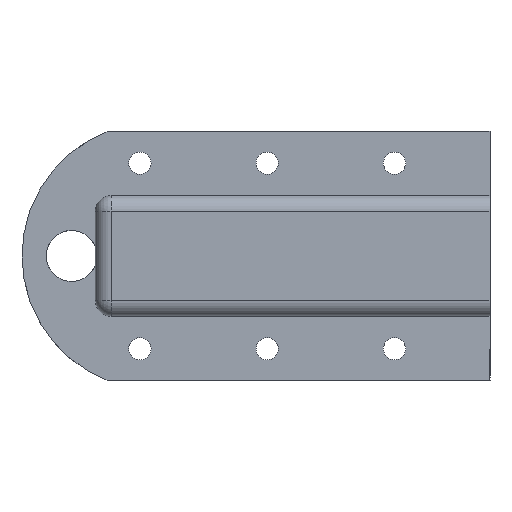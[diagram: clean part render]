
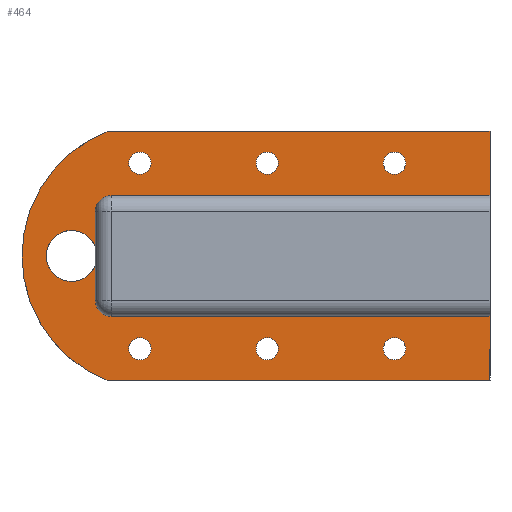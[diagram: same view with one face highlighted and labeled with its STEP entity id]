
A CAD part, top view. The second image highlights one B-rep face of the part: STEP entity #464.
In plain terms, the highlighted planar face has unit normal (0, 0, 1).
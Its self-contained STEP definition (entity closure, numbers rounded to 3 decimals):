
#464=ADVANCED_FACE('',(#3373,#3375,#3377,#3379,#3381,#3383,#3385),#3387,.T.);
#3373=FACE_BOUND('',#3374,.T.);
#3374=EDGE_LOOP('',(#5835,#5836,#5837,#5838,#5839,#5840,#5841,#5842,#5843,#5844,
#5845,#5846));
#3375=FACE_BOUND('',#3376,.T.);
#3376=EDGE_LOOP('',(#5847));
#3377=FACE_BOUND('',#3378,.T.);
#3378=EDGE_LOOP('',(#5848));
#3379=FACE_BOUND('',#3380,.T.);
#3380=EDGE_LOOP('',(#5849));
#3381=FACE_BOUND('',#3382,.T.);
#3382=EDGE_LOOP('',(#5850));
#3383=FACE_BOUND('',#3384,.T.);
#3384=EDGE_LOOP('',(#5851));
#3385=FACE_BOUND('',#3386,.T.);
#3386=EDGE_LOOP('',(#5852));
#3387=PLANE('',#3388);
#3388=AXIS2_PLACEMENT_3D('',#3389,#3390,#3391);
#3389=CARTESIAN_POINT('',(0.,0.,16.));
#3390=DIRECTION('',(0.,0.,1.));
#3391=DIRECTION('',(1.,0.,0.));
#5835=ORIENTED_EDGE('',*,*,#7091,.F.);
#5836=ORIENTED_EDGE('',*,*,#7092,.F.);
#5837=ORIENTED_EDGE('',*,*,#7069,.T.);
#5838=ORIENTED_EDGE('',*,*,#7090,.T.);
#5839=ORIENTED_EDGE('',*,*,#7088,.T.);
#5840=ORIENTED_EDGE('',*,*,#7086,.T.);
#5841=ORIENTED_EDGE('',*,*,#7073,.T.);
#5842=ORIENTED_EDGE('',*,*,#7093,.F.);
#5843=ORIENTED_EDGE('',*,*,#7094,.F.);
#5844=ORIENTED_EDGE('',*,*,#7095,.F.);
#5845=ORIENTED_EDGE('',*,*,#7096,.T.);
#5846=ORIENTED_EDGE('',*,*,#7097,.F.);
#5847=ORIENTED_EDGE('',*,*,#7083,.T.);
#5848=ORIENTED_EDGE('',*,*,#7080,.T.);
#5849=ORIENTED_EDGE('',*,*,#7084,.T.);
#5850=ORIENTED_EDGE('',*,*,#7082,.T.);
#5851=ORIENTED_EDGE('',*,*,#7079,.T.);
#5852=ORIENTED_EDGE('',*,*,#7081,.T.);
#7069=EDGE_CURVE('',#9054,#9052,#9055,.T.);
#7073=EDGE_CURVE('',#9062,#9060,#9063,.T.);
#7079=EDGE_CURVE('',#9073,#9073,#9074,.F.);
#7080=EDGE_CURVE('',#9075,#9075,#9076,.F.);
#7081=EDGE_CURVE('',#9077,#9077,#9078,.F.);
#7082=EDGE_CURVE('',#9079,#9079,#9080,.F.);
#7083=EDGE_CURVE('',#9081,#9081,#9082,.F.);
#7084=EDGE_CURVE('',#9083,#9083,#9084,.F.);
#7086=EDGE_CURVE('',#9087,#9062,#9088,.T.);
#7088=EDGE_CURVE('',#9090,#9087,#9091,.T.);
#7090=EDGE_CURVE('',#9052,#9090,#9093,.T.);
#7091=EDGE_CURVE('',#9094,#9095,#9096,.F.);
#7092=EDGE_CURVE('',#9054,#9094,#9097,.T.);
#7093=EDGE_CURVE('',#9098,#9060,#9099,.T.);
#7094=EDGE_CURVE('',#9100,#9098,#9101,.F.);
#7095=EDGE_CURVE('',#9102,#9100,#9103,.F.);
#7096=EDGE_CURVE('',#9102,#9104,#9105,.F.);
#7097=EDGE_CURVE('',#9095,#9104,#9106,.F.);
#9052=VERTEX_POINT('',#14017);
#9054=VERTEX_POINT('',#14021);
#9055=LINE('',#14022,#14023);
#9060=VERTEX_POINT('',#14034);
#9062=VERTEX_POINT('',#14039);
#9063=LINE('',#14040,#14041);
#9073=VERTEX_POINT('',#14062);
#9074=CIRCLE('',#14063,3.5);
#9075=VERTEX_POINT('',#14067);
#9076=CIRCLE('',#14068,3.5);
#9077=VERTEX_POINT('',#14072);
#9078=CIRCLE('',#14073,3.5);
#9079=VERTEX_POINT('',#14077);
#9080=CIRCLE('',#14078,3.5);
#9081=VERTEX_POINT('',#14082);
#9082=CIRCLE('',#14083,3.5);
#9083=VERTEX_POINT('',#14087);
#9084=CIRCLE('',#14088,3.5);
#9087=VERTEX_POINT('',#14097);
#9088=LINE('',#14098,#14099);
#9090=VERTEX_POINT('',#14104);
#9091=CIRCLE('',#14105,41.862);
#9093=LINE('',#14112,#14113);
#9094=VERTEX_POINT('',#14115);
#9095=VERTEX_POINT('',#14116);
#9096=CIRCLE('',#14117,5.);
#9097=LINE('',#14121,#14122);
#9098=VERTEX_POINT('',#14124);
#9099=LINE('',#14125,#14126);
#9100=VERTEX_POINT('',#14128);
#9101=CIRCLE('',#14129,5.);
#9102=VERTEX_POINT('',#14133);
#9103=LINE('',#14134,#14135);
#9104=VERTEX_POINT('',#14137);
#9105=CIRCLE('',#14138,8.);
#9106=LINE('',#14142,#14143);
#14017=CARTESIAN_POINT('',(0.,39.15,16.));
#14021=CARTESIAN_POINT('',(0.,19.,16.));
#14022=CARTESIAN_POINT('',(0.,19.,16.));
#14023=VECTOR('',#14024,1.);
#14024=DIRECTION('',(0.,1.,0.));
#14034=CARTESIAN_POINT('',(0.,-19.,16.));
#14039=CARTESIAN_POINT('',(0.,-39.15,16.));
#14040=CARTESIAN_POINT('',(0.,-39.15,16.));
#14041=VECTOR('',#14042,1.);
#14042=DIRECTION('',(0.,1.,0.));
#14062=CARTESIAN_POINT('',(-66.5,29.15,16.));
#14063=AXIS2_PLACEMENT_3D('',#14064,#14065,#14066);
#14064=CARTESIAN_POINT('',(-70.,29.15,16.));
#14065=DIRECTION('',(0.,0.,1.));
#14066=DIRECTION('',(1.,0.,0.));
#14067=CARTESIAN_POINT('',(-106.5,-29.15,16.));
#14068=AXIS2_PLACEMENT_3D('',#14069,#14070,#14071);
#14069=CARTESIAN_POINT('',(-110.,-29.15,16.));
#14070=DIRECTION('',(0.,0.,1.));
#14071=DIRECTION('',(1.,0.,0.));
#14072=CARTESIAN_POINT('',(-106.5,29.15,16.));
#14073=AXIS2_PLACEMENT_3D('',#14074,#14075,#14076);
#14074=CARTESIAN_POINT('',(-110.,29.15,16.));
#14075=DIRECTION('',(0.,0.,1.));
#14076=DIRECTION('',(1.,0.,0.));
#14077=CARTESIAN_POINT('',(-26.5,-29.15,16.));
#14078=AXIS2_PLACEMENT_3D('',#14079,#14080,#14081);
#14079=CARTESIAN_POINT('',(-30.,-29.15,16.));
#14080=DIRECTION('',(0.,0.,1.));
#14081=DIRECTION('',(1.,0.,0.));
#14082=CARTESIAN_POINT('',(-26.5,29.15,16.));
#14083=AXIS2_PLACEMENT_3D('',#14084,#14085,#14086);
#14084=CARTESIAN_POINT('',(-30.,29.15,16.));
#14085=DIRECTION('',(0.,0.,1.));
#14086=DIRECTION('',(1.,0.,0.));
#14087=CARTESIAN_POINT('',(-66.5,-29.15,16.));
#14088=AXIS2_PLACEMENT_3D('',#14089,#14090,#14091);
#14089=CARTESIAN_POINT('',(-70.,-29.15,16.));
#14090=DIRECTION('',(0.,0.,1.));
#14091=DIRECTION('',(1.,0.,0.));
#14097=CARTESIAN_POINT('',(-120.,-39.15,16.));
#14098=CARTESIAN_POINT('',(-120.,-39.15,16.));
#14099=VECTOR('',#14100,1.);
#14100=DIRECTION('',(1.,0.,0.));
#14104=CARTESIAN_POINT('',(-120.,39.15,16.));
#14105=AXIS2_PLACEMENT_3D('',#14106,#14107,#14108);
#14106=CARTESIAN_POINT('',(-105.177,0.,16.));
#14107=DIRECTION('',(0.,0.,1.));
#14108=DIRECTION('',(-0.354,0.935,0.));
#14112=CARTESIAN_POINT('',(0.,39.15,16.));
#14113=VECTOR('',#14114,1.);
#14114=DIRECTION('',(-1.,0.,0.));
#14115=CARTESIAN_POINT('',(-119.,19.,16.));
#14116=CARTESIAN_POINT('',(-124.,14.,16.));
#14117=AXIS2_PLACEMENT_3D('',#14118,#14119,#14120);
#14118=CARTESIAN_POINT('',(-119.,14.,16.));
#14119=DIRECTION('',(0.,0.,-1.));
#14120=DIRECTION('',(-1.,0.,0.));
#14121=CARTESIAN_POINT('',(0.,19.,16.));
#14122=VECTOR('',#14123,1.);
#14123=DIRECTION('',(-1.,0.,0.));
#14124=CARTESIAN_POINT('',(-119.,-19.,16.));
#14125=CARTESIAN_POINT('',(-119.,-19.,16.));
#14126=VECTOR('',#14127,1.);
#14127=DIRECTION('',(1.,0.,0.));
#14128=CARTESIAN_POINT('',(-124.,-14.,16.));
#14129=AXIS2_PLACEMENT_3D('',#14130,#14131,#14132);
#14130=CARTESIAN_POINT('',(-119.,-14.,16.));
#14131=DIRECTION('',(0.,0.,-1.));
#14132=DIRECTION('',(0.,-1.,0.));
#14133=CARTESIAN_POINT('',(-124.,-2.907,16.));
#14134=CARTESIAN_POINT('',(-124.,-14.,16.));
#14135=VECTOR('',#14136,1.);
#14136=DIRECTION('',(0.,1.,0.));
#14137=CARTESIAN_POINT('',(-124.,2.907,16.));
#14138=AXIS2_PLACEMENT_3D('',#14139,#14140,#14141);
#14139=CARTESIAN_POINT('',(-131.453,0.,16.));
#14140=DIRECTION('',(0.,0.,1.));
#14141=DIRECTION('',(0.932,0.363,0.));
#14142=CARTESIAN_POINT('',(-124.,2.907,16.));
#14143=VECTOR('',#14144,1.);
#14144=DIRECTION('',(0.,1.,0.));
